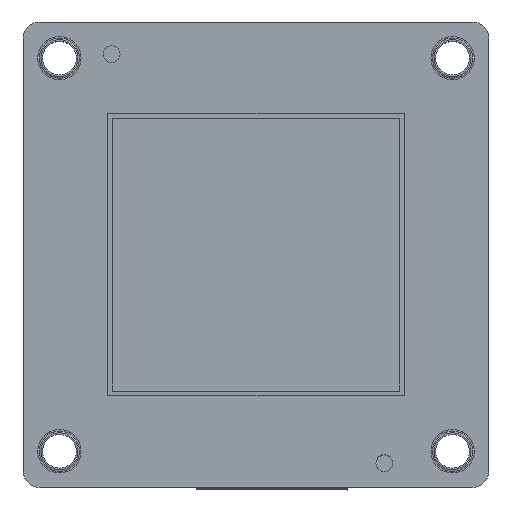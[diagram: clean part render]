
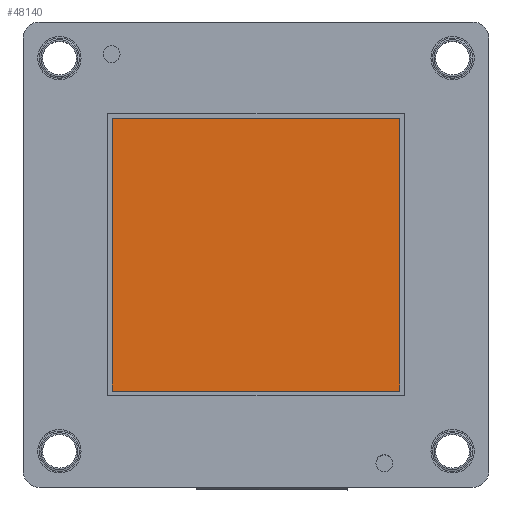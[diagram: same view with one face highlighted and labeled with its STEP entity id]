
A CAD part, top view. The second image highlights one B-rep face of the part: STEP entity #48140.
In plain terms, the highlighted planar face has unit normal (0, 0, 1).
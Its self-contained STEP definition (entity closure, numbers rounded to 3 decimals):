
#721 = CARTESIAN_POINT ( 'NONE',  ( 5.55, 6., 6.7 ) ) ;
#1366 = EDGE_CURVE ( 'NONE', #22478, #2423, #20274, .T. ) ;
#2423 = VERTEX_POINT ( 'NONE', #38572 ) ;
#6034 = DIRECTION ( 'NONE',  ( 0., 1., 0. ) ) ;
#6368 = VECTOR ( 'NONE', #23049, 1000. ) ;
#7678 = EDGE_LOOP ( 'NONE', ( #43518, #38588, #36276, #38585 ) ) ;
#7943 = FACE_OUTER_BOUND ( 'NONE', #7678, .T. ) ;
#9465 = CARTESIAN_POINT ( 'NONE',  ( 14.5, 14.5, 6.7 ) ) ;
#10425 = DIRECTION ( 'NONE',  ( -1., 0., 0. ) ) ;
#13552 = CARTESIAN_POINT ( 'NONE',  ( 23.45, 6., 6.7 ) ) ;
#14641 = EDGE_CURVE ( 'NONE', #37239, #22478, #40240, .T. ) ;
#18056 = VECTOR ( 'NONE', #6034, 1000. ) ;
#18450 = EDGE_CURVE ( 'NONE', #2423, #42845, #26726, .T. ) ;
#20274 = LINE ( 'NONE', #33408, #47938 ) ;
#22478 = VERTEX_POINT ( 'NONE', #31381 ) ;
#23049 = DIRECTION ( 'NONE',  ( 0., -1., 0. ) ) ;
#23237 = VECTOR ( 'NONE', #38289, 1000. ) ;
#25423 = CARTESIAN_POINT ( 'NONE',  ( 23.45, 6., 6.7 ) ) ;
#26726 = LINE ( 'NONE', #46065, #6368 ) ;
#28594 = PLANE ( 'NONE',  #29496 ) ;
#29496 = AXIS2_PLACEMENT_3D ( 'NONE', #9465, #48425, #40172 ) ;
#31062 = LINE ( 'NONE', #721, #23237 ) ;
#31381 = CARTESIAN_POINT ( 'NONE',  ( 23.45, 23., 6.7 ) ) ;
#33408 = CARTESIAN_POINT ( 'NONE',  ( 5.55, 23., 6.7 ) ) ;
#36276 = ORIENTED_EDGE ( 'NONE', *, *, #14641, .T. ) ;
#37239 = VERTEX_POINT ( 'NONE', #25423 ) ;
#38289 = DIRECTION ( 'NONE',  ( 1., 0., 0. ) ) ;
#38572 = CARTESIAN_POINT ( 'NONE',  ( 5.55, 23., 6.7 ) ) ;
#38585 = ORIENTED_EDGE ( 'NONE', *, *, #1366, .T. ) ;
#38588 = ORIENTED_EDGE ( 'NONE', *, *, #42520, .T. ) ;
#40172 = DIRECTION ( 'NONE',  ( -1., 0., 0. ) ) ;
#40240 = LINE ( 'NONE', #13552, #18056 ) ;
#40616 = CARTESIAN_POINT ( 'NONE',  ( 5.55, 6., 6.7 ) ) ;
#42520 = EDGE_CURVE ( 'NONE', #42845, #37239, #31062, .T. ) ;
#42845 = VERTEX_POINT ( 'NONE', #40616 ) ;
#43518 = ORIENTED_EDGE ( 'NONE', *, *, #18450, .T. ) ;
#46065 = CARTESIAN_POINT ( 'NONE',  ( 5.55, 6., 6.7 ) ) ;
#47938 = VECTOR ( 'NONE', #10425, 1000. ) ;
#48140 = ADVANCED_FACE ( 'NONE', ( #7943 ), #28594, .F. ) ;
#48425 = DIRECTION ( 'NONE',  ( 0., 0., -1. ) ) ;
